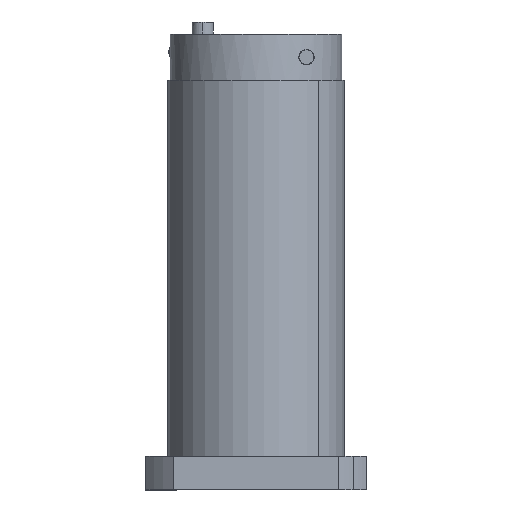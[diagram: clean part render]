
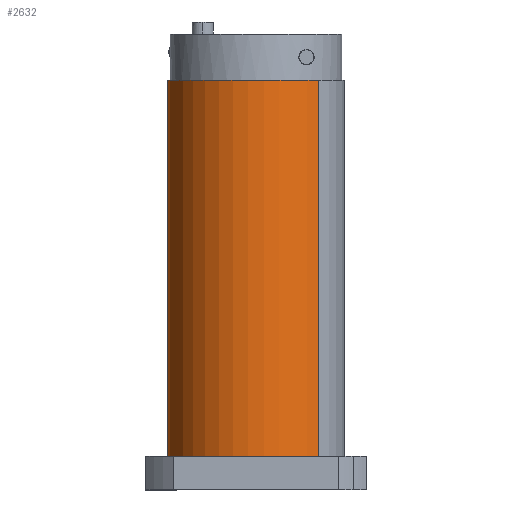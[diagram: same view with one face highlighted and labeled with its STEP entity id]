
A CAD part, left-side view. The second image highlights one B-rep face of the part: STEP entity #2632.
In plain terms, the highlighted cylindrical face has radius 29 mm (diameter 58 mm), a partial arc.
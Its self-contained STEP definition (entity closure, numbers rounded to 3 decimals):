
#32 = DIRECTION ( 'NONE',  ( -0.707, -0.707, 0. ) ) ;
#408 = AXIS2_PLACEMENT_3D ( 'NONE', #7136, #710, #32 ) ;
#710 = DIRECTION ( 'NONE',  ( 0., 0., -1. ) ) ;
#1427 = CARTESIAN_POINT ( 'NONE',  ( -41.172, -23.659, 78. ) ) ;
#1574 = VERTEX_POINT ( 'NONE', #1427 ) ;
#1780 = EDGE_LOOP ( 'NONE', ( #2573, #3405, #2040, #2484 ) ) ;
#2040 = ORIENTED_EDGE ( 'NONE', *, *, #4218, .F. ) ;
#2293 = DIRECTION ( 'NONE',  ( 0., 0., -1. ) ) ;
#2302 = CARTESIAN_POINT ( 'NONE',  ( -41.172, -23.659, 201. ) ) ;
#2377 = DIRECTION ( 'NONE',  ( 0., 0., -1. ) ) ;
#2484 = ORIENTED_EDGE ( 'NONE', *, *, #7449, .F. ) ;
#2573 = ORIENTED_EDGE ( 'NONE', *, *, #2799, .T. ) ;
#2632 = ADVANCED_FACE ( 'NONE', ( #8302 ), #6972, .T. ) ;
#2671 = AXIS2_PLACEMENT_3D ( 'NONE', #7358, #5358, #7941 ) ;
#2684 = CIRCLE ( 'NONE', #408, 29. ) ;
#2799 = EDGE_CURVE ( 'NONE', #3031, #6701, #2684, .T. ) ;
#3031 = VERTEX_POINT ( 'NONE', #2302 ) ;
#3405 = ORIENTED_EDGE ( 'NONE', *, *, #7495, .T. ) ;
#3922 = VERTEX_POINT ( 'NONE', #6887 ) ;
#4218 = EDGE_CURVE ( 'NONE', #1574, #3922, #6303, .T. ) ;
#4239 = LINE ( 'NONE', #5462, #4762 ) ;
#4494 = VECTOR ( 'NONE', #4862, 1000. ) ;
#4762 = VECTOR ( 'NONE', #2293, 1000. ) ;
#4862 = DIRECTION ( 'NONE',  ( 0., 0., -1. ) ) ;
#4908 = DIRECTION ( 'NONE',  ( -0.707, -0.707, 0. ) ) ;
#5079 = AXIS2_PLACEMENT_3D ( 'NONE', #8132, #2377, #4908 ) ;
#5358 = DIRECTION ( 'NONE',  ( 0., 0., -1. ) ) ;
#5462 = CARTESIAN_POINT ( 'NONE',  ( -0.16, 17.354, 139.5 ) ) ;
#5503 = CARTESIAN_POINT ( 'NONE',  ( -41.172, -23.659, 139.5 ) ) ;
#6303 = CIRCLE ( 'NONE', #2671, 29. ) ;
#6701 = VERTEX_POINT ( 'NONE', #8301 ) ;
#6887 = CARTESIAN_POINT ( 'NONE',  ( -0.16, 17.354, 78. ) ) ;
#6972 = CYLINDRICAL_SURFACE ( 'NONE', #5079, 29. ) ;
#7136 = CARTESIAN_POINT ( 'NONE',  ( -20.666, -3.152, 201. ) ) ;
#7358 = CARTESIAN_POINT ( 'NONE',  ( -20.666, -3.152, 78. ) ) ;
#7449 = EDGE_CURVE ( 'NONE', #3031, #1574, #8048, .T. ) ;
#7495 = EDGE_CURVE ( 'NONE', #6701, #3922, #4239, .T. ) ;
#7941 = DIRECTION ( 'NONE',  ( -0.707, -0.707, 0. ) ) ;
#8048 = LINE ( 'NONE', #5503, #4494 ) ;
#8132 = CARTESIAN_POINT ( 'NONE',  ( -20.666, -3.152, 139.5 ) ) ;
#8301 = CARTESIAN_POINT ( 'NONE',  ( -0.16, 17.354, 201. ) ) ;
#8302 = FACE_OUTER_BOUND ( 'NONE', #1780, .T. ) ;
